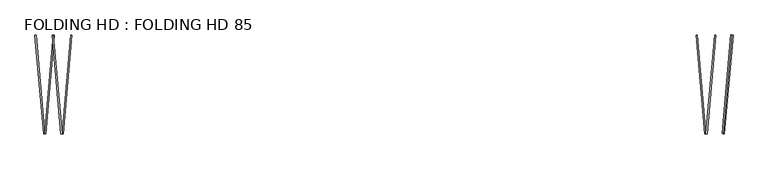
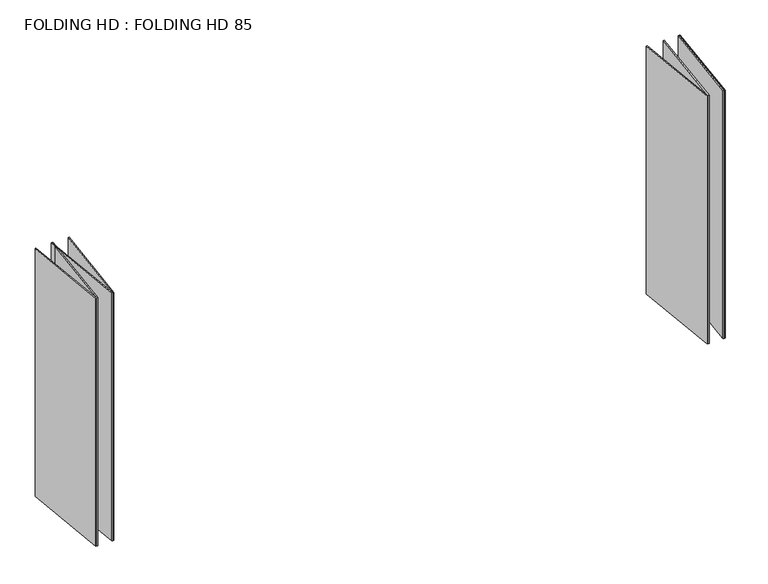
"""IFC4 building model written with IfcOpenShell, lengths in millimetres: plate geometry, FOLDING HD : FOLDING HD 85."""

from ifc_helpers import new_model, si_unit, origin, origin_with_axes, place, context, project, spatial, polyline, outline, extrude, source, transform, mapped, element, save


def folding_hd_folding_hd_85_cdaf17b6(model_context):
    return source(origin(), model_context, "Body", "SweptSolid", [
        extrude(outline(polyline([(3071.5598315, -896.5752283), (3061.5978845, -895.7036709), (3140.0380525, 0.8715574), (3149.9999995, 0.0), (3071.5598315, -896.5752283)])), origin_with_axes(), (0.0, 0.0, 1.0), 2570.0),
        extrude(outline(polyline([(3071.5598315, -896.5752283), (3150.0, 0.0), (3159.961947, -0.8715574), (3081.5217785, -897.4467857), (3071.5598315, -896.5752283)])), origin_with_axes(), (0.0, 0.0, 1.0), 2570.0),
        extrude(outline(polyline([(2914.6794946, -896.5752283), (2993.1196631, 0.0), (3003.08161, -0.8715574), (2924.6414416, -897.4467857), (2914.6794946, -896.5752283)])), origin_with_axes(), (0.0, 0.0, 1.0), 2570.0),
        extrude(outline(polyline([(2914.6794946, -896.5752283), (2904.7175476, -897.4467857), (2826.2773791, -0.8715574), (2836.2393261, 0.0), (2914.6794946, -896.5752283)])), origin_with_axes(), (0.0, 0.0, 1.0), 2570.0),
        extrude(outline(polyline([(-2914.6794946, -896.5752283), (-2924.6414416, -897.4467857), (-3003.08161, -0.8715574), (-2993.1196631, 0.0), (-2914.6794946, -896.5752283)])), origin_with_axes(), (0.0, 0.0, 1.0), 2570.0),
        extrude(outline(polyline([(-2914.6794946, -896.5752283), (-2836.2393261, 0.0), (-2826.2773791, -0.8715574), (-2904.7175476, -897.4467857), (-2914.6794946, -896.5752283)])), origin_with_axes(), (0.0, 0.0, 1.0), 2570.0),
        extrude(outline(polyline([(-3071.5598315, -896.5752283), (-2993.1196631, 0.0), (-2983.1577161, -0.8715574), (-3061.5978845, -897.4467857), (-3071.5598315, -896.5752283)])), origin_with_axes(), (0.0, 0.0, 1.0), 2570.0),
        extrude(outline(polyline([(-3071.5598315, -896.5752283), (-3081.5217785, -897.4467857), (-3159.961947, -0.8715574), (-3150.0, 0.0), (-3071.5598315, -896.5752283)])), origin_with_axes(), (0.0, 0.0, 1.0), 2570.0),
    ])


if __name__ == "__main__":
    model = new_model("IFC4")
    model_context = context("Model", 3, world=origin())
    ifc_project = project(units=[si_unit("LENGTHUNIT", "METRE", prefix="MILLI")], contexts=[model_context])
    site = spatial("IfcSite", under=ifc_project)
    building = spatial("IfcBuilding", under=site)
    placement = place(None, origin())
    folding_hd_folding_hd_85_shape = folding_hd_folding_hd_85_cdaf17b6(model_context)
    element("IfcPlate", 1, ObjectType="FOLDING HD : FOLDING HD 85", at=placement, inside=building, context=model_context, shape_type="MappedRepresentation", body=[
        mapped(folding_hd_folding_hd_85_shape, transform((0.0, 0.0, 0.0), x_axis=(1.0, 0.0, 0.0), y_axis=(0.0, 1.0, 0.0), z_axis=(0.0, 0.0, 1.0))),
    ])
    save(model, "model.ifc")
